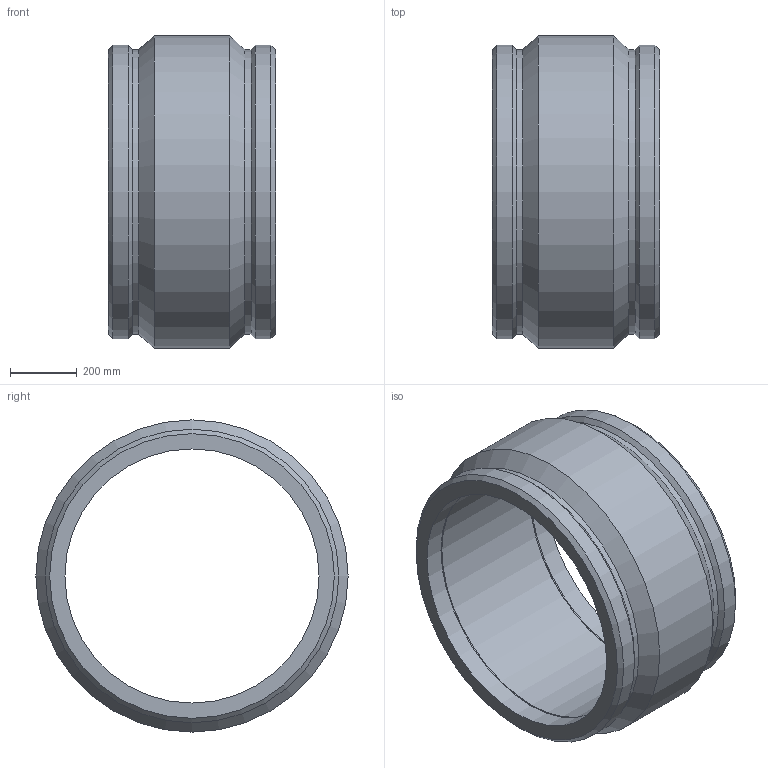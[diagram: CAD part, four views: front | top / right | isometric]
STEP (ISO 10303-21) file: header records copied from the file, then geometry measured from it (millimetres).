
FILE_DESCRIPTION(/* description */ ('PLASSON IPS COUPLER 30'''''),/* implementation_level */ '2;1');
FILE_NAME(/* name */ 'C:\Dropbox\KIMPROJECTS-Inventor 2019\99-16-3568-Processing Inch\ASTM ElectroFusion 2021\5901B\5901B003300.ipt.stp',/* time_stamp */ '2021-08-30T09:48:48+03:00',/* author */ ('KIM'),/* organization */ (''),/* preprocessor_version */ 'ST-DEVELOPER v17.2',/* originating_system */ 'Autodesk Inventor 2019',/* authorisation */ '');
FILE_SCHEMA (('AUTOMOTIVE_DESIGN { 1 0 10303 214 3 1 1 }'));
Length unit declared in the file: inch
Products named in the file (1): 5901B003300
Bounding box: 500.13 x 931.93 x 931.93 mm (x, y, z)
Volume: 92932140.2 mm3; surface area: 2986541.5 mm2
Topology: 1 solids, 1 shells, 20 faces, 56 edges, 40 vertices
Faces by surface type: cone 8, cylinder 8, plane 4
Full cylindrical faces by diameter (mm): 758.6 x3, 849.73 x2, 876.01 x2, 931.926 x1
Entity records: 731 total; most frequent: DIRECTION 138, CARTESIAN_POINT 117, ORIENTED_EDGE 112, AXIS2_PLACEMENT_3D 61, EDGE_CURVE 56, CIRCLE 40, VERTEX_POINT 40, EDGE_LOOP 24
